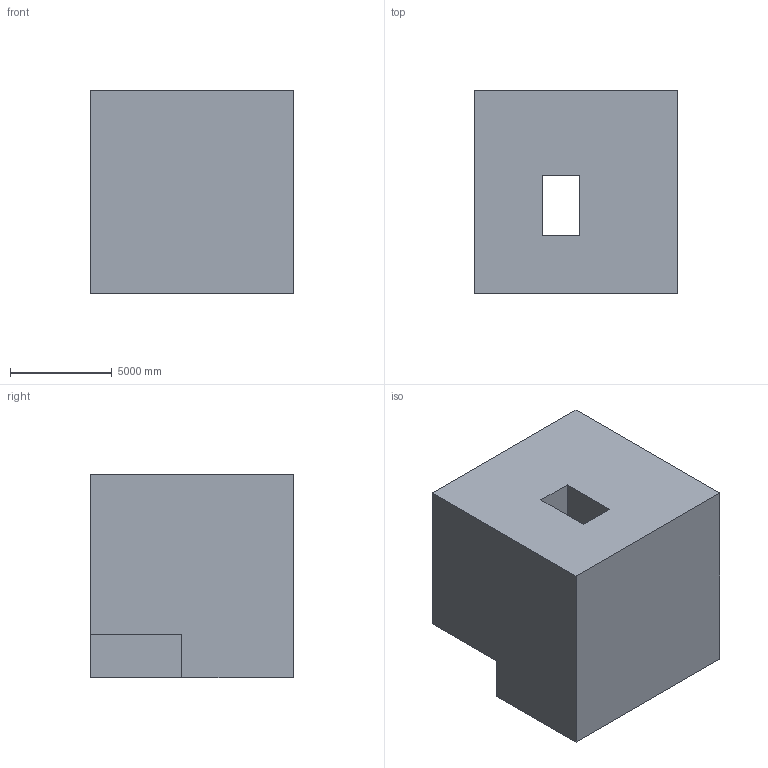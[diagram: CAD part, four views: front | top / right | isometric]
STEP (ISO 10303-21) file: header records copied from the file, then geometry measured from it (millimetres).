
FILE_DESCRIPTION (( 'STEP AP203' ), '1' );
FILE_NAME ('235.STEP', '2022-09-07T12:23:19', ( 'user' ), ( '' ), 'SwSTEP 2.0', 'SolidWorks 2021', '' );
FILE_SCHEMA (( 'CONFIG_CONTROL_DESIGN' ));
Length unit declared in the file: centimetre
Products named in the file (1): 235
Bounding box: 10000 x 10000 x 10000 mm (x, y, z)
Volume: 918296791636.1 mm3; surface area: 684730024.1 mm2
Topology: 1 solids, 1 shells, 13 faces, 33 edges, 22 vertices
Faces by surface type: plane 13
Entity records: 468 total; most frequent: CARTESIAN_POINT 69, ORIENTED_EDGE 66, DIRECTION 61, LINE 33, VECTOR 33, EDGE_CURVE 33, VERTEX_POINT 22, EDGE_LOOP 15
